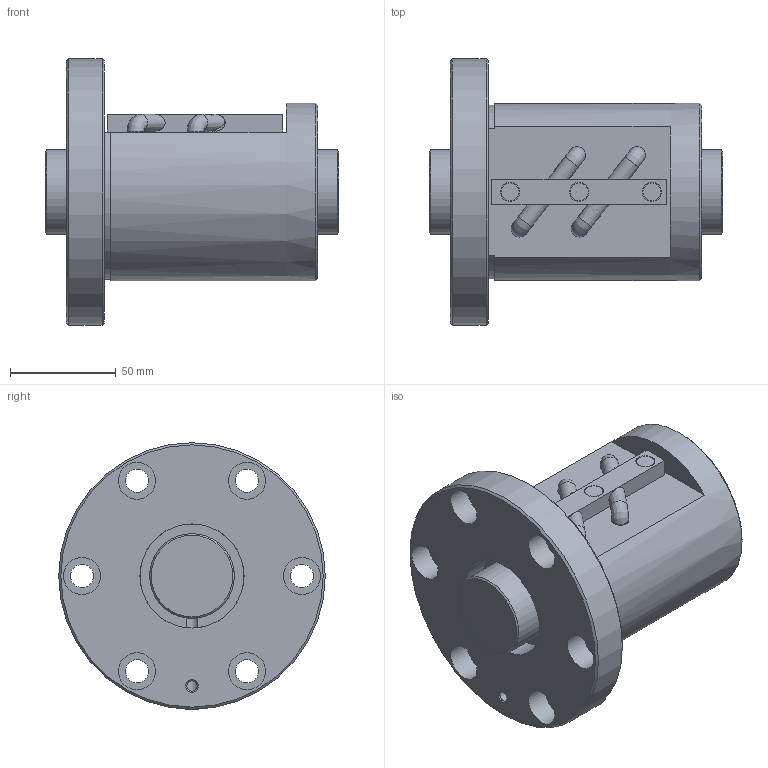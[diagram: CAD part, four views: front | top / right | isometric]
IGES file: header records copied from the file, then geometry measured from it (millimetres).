
Start section: Data from Parasolid IGES Translator 26.0.171, Copyright(c) 2006 Siemens PLM Software. All Rights Reserved.
Global section: file name: BIF4012V-5RRG0+139LC0_000.igs; native system: By Siemens PLM Incorporated; preprocessor: XPlus GENERIC/IGES 26.0.171; author: Noname; organization: Noname; date: 20240715.082427; units: millimetre
Bounding box: 139 x 126 x 126 mm (x, y, z)
Surface area: 99893.8 mm2 (no closed solid volume)
Topology: 0 solids, 0 shells, 96 faces, 434 edges, 394 vertices
Faces by surface type: revolution 55, extrusion 41
